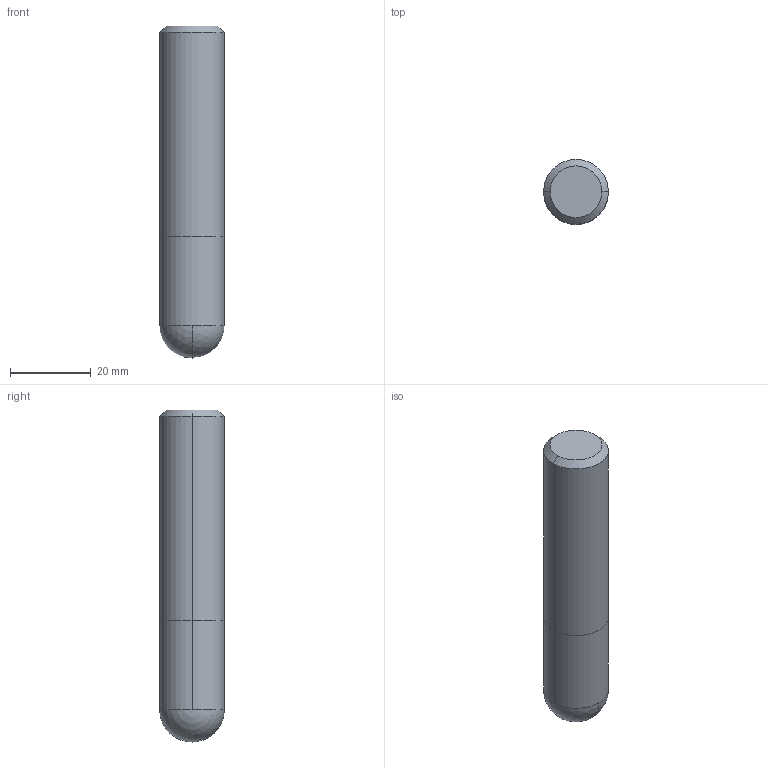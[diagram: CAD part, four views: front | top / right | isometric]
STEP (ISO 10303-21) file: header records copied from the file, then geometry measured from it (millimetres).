
FILE_DESCRIPTION (( 'STEP AP214' ), '1' );
FILE_NAME ('664.160.00_3D-model.step', '2022-02-19T00:30:06', ( '' ), ( '' ), 'SwSTEP 2.0', 'SolidWorks 2020', '' );
FILE_SCHEMA (( 'AUTOMOTIVE_DESIGN' ));
Length unit declared in the file: millimetre
Products named in the file (3): CUT-3D^Baugr147; NOCUT-3D^Baugr147; 664.160.00_3D-model
Assembly tree (2 placements, depth 2):
  664.160.00_3D-model
    CUT-3D^Baugr147
    NOCUT-3D^Baugr147
Bounding box: 16 x 16 x 82 mm (x, y, z)
Volume: 15890.9 mm3; surface area: 4674.5 mm2
Topology: 2 solids, 2 shells, 11 faces, 22 edges, 13 vertices
Faces by surface type: cylinder 4, plane 3, sphere 2, cone 2
Entity records: 402 total; most frequent: DIRECTION 72, CARTESIAN_POINT 52, ORIENTED_EDGE 40, AXIS2_PLACEMENT_3D 33, EDGE_CURVE 20, CIRCLE 14, VERTEX_POINT 13, FACE_OUTER_BOUND 11
